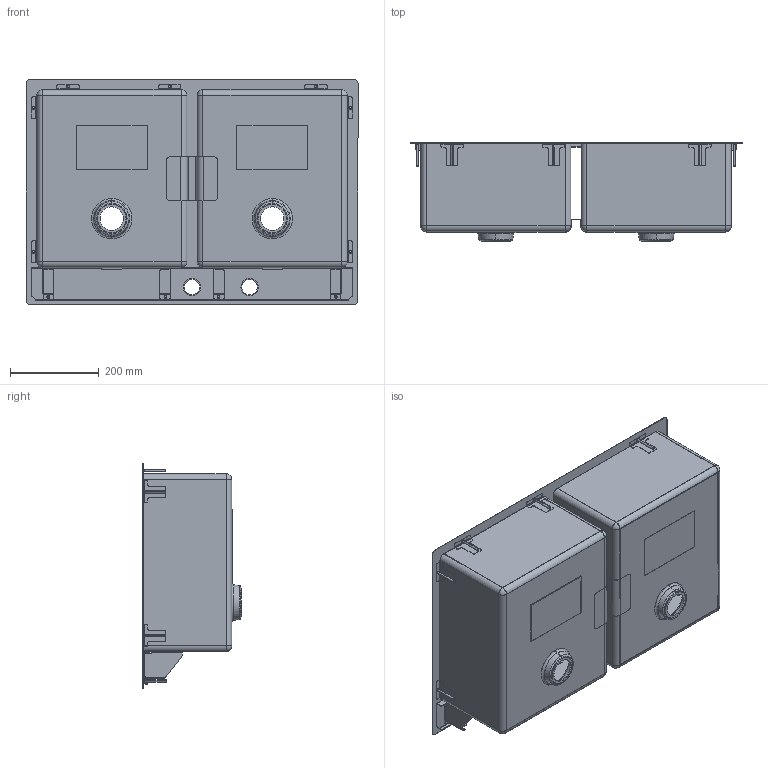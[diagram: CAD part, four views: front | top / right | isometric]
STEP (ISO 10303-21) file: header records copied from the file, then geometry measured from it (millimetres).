
FILE_DESCRIPTION (( 'STEP AP203' ), '1' );
FILE_NAME ('Matra Mix 75x51 2v automatica.STEP', '2021-01-27T13:04:34', ( 'Utente Windows' ), ( '' ), 'SwSTEP 2.0', 'SolidWorks 2020', '' );
FILE_SCHEMA (( 'CONFIG_CONTROL_DESIGN' ));
Length unit declared in the file: millimetre
Products named in the file (20): Ass. RC11SV_DX - RC11; Ass. GB17P6; GB17P1 - base gancio_Piegato; RC16 piegato; Ass. RC11SV_SX - RC12; GB17P4 - inserto filettato M5; RC21B - D7040_Piegato; RC11SV_DX - RC11; RC11SV_SX - RC12; Matra Mix 75x51 2v automatica; Matra - piletta integrata_MIX 75x51 2v 2f SMEG; TF11 - smorzante 160x100x1,8
Assembly tree (38 placements, depth 3):
  Matra Mix 75x51 2v automatica
    Matra - piletta integrata_MIX 75x51 2v 2f SMEG
    Ass. RC11SV_DX - RC11
      RC11SV_DX - RC11
      GB17P4 - inserto filettato M5
    Ass. RC11SV_SX - RC12
      RC11SV_SX - RC12
      GB17P4 - inserto filettato M5
    Ass. GB17P6
      GB17P1 - base gancio_Piegato
      GB17P4 - inserto filettato M5
    Ass. GB17P6
      GB17P1 - base gancio_Piegato
      GB17P4 - inserto filettato M5
    Ass. GB17P6
      GB17P1 - base gancio_Piegato
      GB17P4 - inserto filettato M5
    TF11 - smorzante 160x100x1,8  x2
    RC21B - D7040_Piegato
    RC16 piegato
    Ass. RC11SV_SX - RC12
      RC11SV_SX - RC12
      GB17P4 - inserto filettato M5
    Ass. RC11SV_DX - RC11
      RC11SV_DX - RC11
      GB17P4 - inserto filettato M5
    Ass. GB17P6
      GB17P1 - base gancio_Piegato
      GB17P4 - inserto filettato M5
    Ass. GB17P6
      GB17P1 - base gancio_Piegato
      GB17P4 - inserto filettato M5
    Ass. GB17P6
      GB17P1 - base gancio_Piegato
      GB17P4 - inserto filettato M5
    Ass. GB17P6
      GB17P1 - base gancio_Piegato
      GB17P4 - inserto filettato M5
Bounding box: 750 x 221.9 x 510 mm (x, y, z)
Volume: 1048219.4 mm3; surface area: 2233513.2 mm2
Topology: 27 solids, 27 shells, 801 faces, 1964 edges, 1208 vertices
Faces by surface type: plane 435, cylinder 282, cone 40, torus 16, sphere 16, bspline 12
Entity records: 17004 total; most frequent: CARTESIAN_POINT 2659, DIRECTION 2602, ORIENTED_EDGE 2384, EDGE_CURVE 1192, AXIS2_PLACEMENT_3D 935, VERTEX_POINT 736, LINE 732, VECTOR 732
